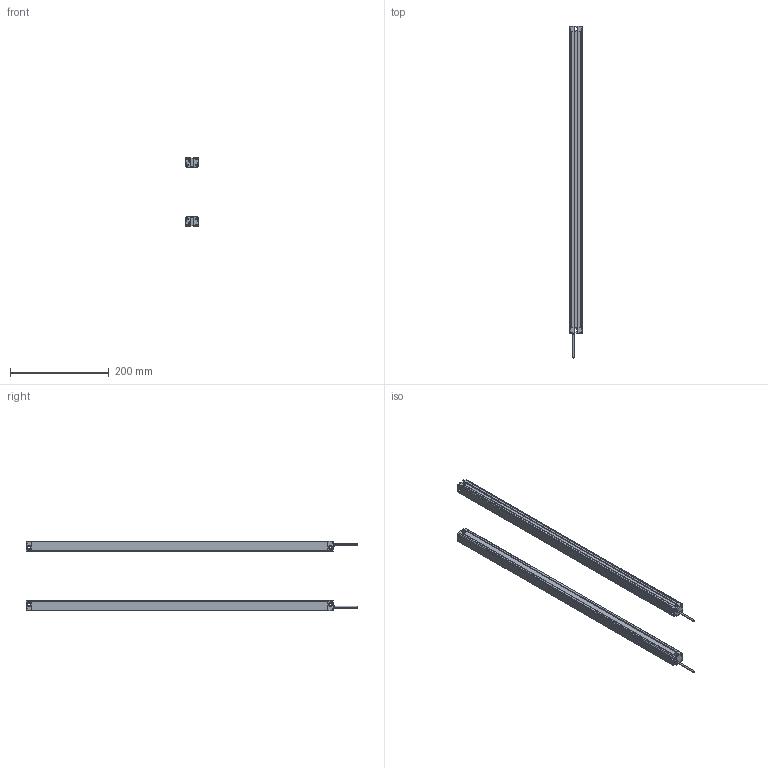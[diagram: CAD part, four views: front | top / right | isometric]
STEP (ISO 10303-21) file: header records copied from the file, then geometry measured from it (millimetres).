
FILE_DESCRIPTION (( 'STEP AP214' ), '1' );
FILE_NAME ('MTC3020.STEP', '2022-08-02T09:00:28', ( '' ), ( '' ), 'SwSTEP 2.0', 'SolidWorks 2018', '' );
FILE_SCHEMA (( 'AUTOMOTIVE_DESIGN' ));
Length unit declared in the file: millimetre
Products named in the file (5): MTC3020; 噩砃P02^MTC; P01^MTC; P02^MTC; MTC waike^MTC
Assembly tree (6 placements, depth 2):
  MTC3020
    MTC waike^MTC  x2
    P01^MTC  x2
    P02^MTC
    噩砃P02^MTC
Bounding box: 25 x 672 x 141.4 mm (x, y, z)
Volume: 208858.5 mm3; surface area: 285277 mm2
Topology: 8 solids, 8 shells, 480 faces, 1396 edges, 924 vertices
Faces by surface type: plane 272, cylinder 208
Entity records: 10886 total; most frequent: DIRECTION 1881, CARTESIAN_POINT 1878, ORIENTED_EDGE 1846, EDGE_CURVE 923, AXIS2_PLACEMENT_3D 637, VERTEX_POINT 610, VECTOR 607, LINE 607
